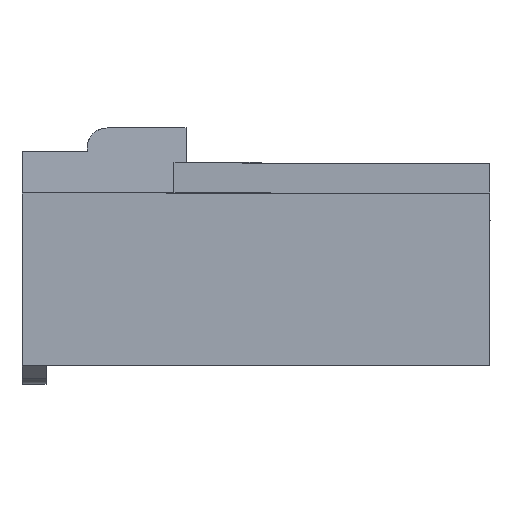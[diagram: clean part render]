
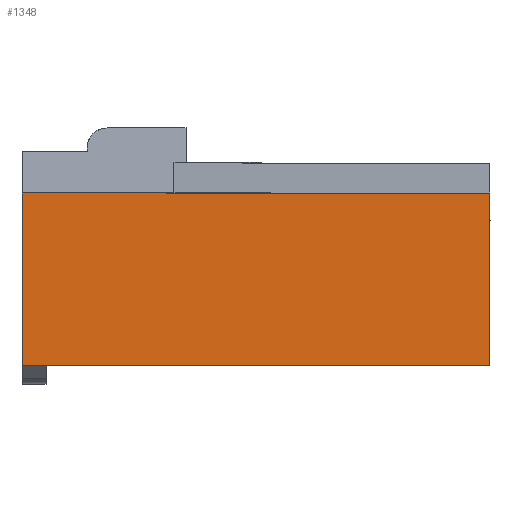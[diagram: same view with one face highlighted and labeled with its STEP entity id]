
A CAD part, front view. The second image highlights one B-rep face of the part: STEP entity #1348.
In plain terms, the highlighted planar face has unit normal (0, -1, 0).
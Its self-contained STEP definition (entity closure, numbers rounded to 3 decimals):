
#1327=AXIS2_PLACEMENT_3D('Plane Axis2P3D',#1324,#1325,#1326) ;
#363=CARTESIAN_POINT('Vertex',(-23.4,-19.5,-5.675)) ;
#366=CARTESIAN_POINT('Line Origine',(-23.4,-19.5,-1.35)) ;
#370=CARTESIAN_POINT('Vertex',(-23.4,-19.5,2.975)) ;
#619=CARTESIAN_POINT('Line Origine',(-11.7,-19.5,2.975)) ;
#623=CARTESIAN_POINT('Vertex',(0.,-19.5,2.975)) ;
#1308=CARTESIAN_POINT('Vertex',(-22.2,-19.5,-5.675)) ;
#1311=CARTESIAN_POINT('Line Origine',(-22.8,-19.5,-5.675)) ;
#1324=CARTESIAN_POINT('Axis2P3D Location',(0.,-19.5,1.65)) ;
#1329=CARTESIAN_POINT('Line Origine',(-11.1,-19.5,-5.675)) ;
#1333=CARTESIAN_POINT('Vertex',(0.,-19.5,-5.675)) ;
#1336=CARTESIAN_POINT('Line Origine',(0.,-19.5,-1.35)) ;
#367=DIRECTION('Vector Direction',(0.,0.,1.)) ;
#620=DIRECTION('Vector Direction',(-1.,0.,0.)) ;
#1312=DIRECTION('Vector Direction',(-1.,0.,0.)) ;
#1325=DIRECTION('Axis2P3D Direction',(0.,1.,0.)) ;
#1326=DIRECTION('Axis2P3D XDirection',(0.,0.,-1.)) ;
#1330=DIRECTION('Vector Direction',(-1.,0.,0.)) ;
#1337=DIRECTION('Vector Direction',(0.,0.,-1.)) ;
#368=VECTOR('Line Direction',#367,1.) ;
#621=VECTOR('Line Direction',#620,1.) ;
#1313=VECTOR('Line Direction',#1312,1.) ;
#1331=VECTOR('Line Direction',#1330,1.) ;
#1338=VECTOR('Line Direction',#1337,1.) ;
#1342=ORIENTED_EDGE('',*,*,#625,.T.) ;
#1343=ORIENTED_EDGE('',*,*,#372,.F.) ;
#1344=ORIENTED_EDGE('',*,*,#1315,.F.) ;
#1345=ORIENTED_EDGE('',*,*,#1335,.F.) ;
#1346=ORIENTED_EDGE('',*,*,#1340,.F.) ;
#1348=ADVANCED_FACE('\X2\FF8EFF9EFF83FF9EFF68FF70\X0\1',(#1347),#1328,.F.) ;
#372=EDGE_CURVE('',#364,#371,#369,.T.) ;
#625=EDGE_CURVE('',#624,#371,#622,.T.) ;
#1315=EDGE_CURVE('',#1309,#364,#1314,.T.) ;
#1335=EDGE_CURVE('',#1334,#1309,#1332,.T.) ;
#1340=EDGE_CURVE('',#624,#1334,#1339,.T.) ;
#1341=EDGE_LOOP('',(#1342,#1343,#1344,#1345,#1346)) ;
#1347=FACE_OUTER_BOUND('',#1341,.T.) ;
#369=LINE('Line',#366,#368) ;
#622=LINE('Line',#619,#621) ;
#1314=LINE('Line',#1311,#1313) ;
#1332=LINE('Line',#1329,#1331) ;
#1339=LINE('Line',#1336,#1338) ;
#1328=PLANE('',#1327) ;
#364=VERTEX_POINT('',#363) ;
#371=VERTEX_POINT('',#370) ;
#624=VERTEX_POINT('',#623) ;
#1309=VERTEX_POINT('',#1308) ;
#1334=VERTEX_POINT('',#1333) ;
